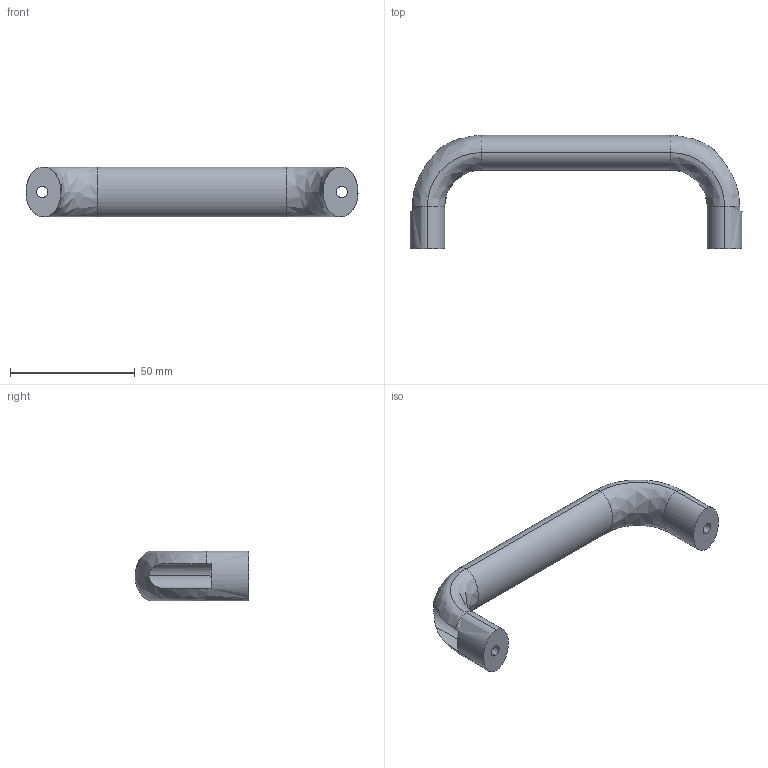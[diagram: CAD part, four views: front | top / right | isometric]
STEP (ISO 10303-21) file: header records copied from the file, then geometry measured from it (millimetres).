
FILE_DESCRIPTION (( 'STEP AP214' ), '1' );
FILE_NAME ('HDL2-04.STEP', '2014-10-15T05:09:55', ( '' ), ( '' ), 'SwSTEP 2.0', 'SolidWorks 2014', '' );
FILE_SCHEMA (( 'AUTOMOTIVE_DESIGN' ));
Length unit declared in the file: millimetre
Products named in the file (1): HDL2-04
Bounding box: 132.97 x 45.48 x 20 mm (x, y, z)
Volume: 34807.3 mm3; surface area: 11106.7 mm2
Topology: 1 solids, 1 shells, 31 faces, 73 edges, 46 vertices
Faces by surface type: bspline 10, plane 10, cylinder 7, cone 4
Entity records: 1063 total; most frequent: CARTESIAN_POINT 376, ORIENTED_EDGE 146, DIRECTION 125, EDGE_CURVE 73, AXIS2_PLACEMENT_3D 49, VERTEX_POINT 46, EDGE_LOOP 37, FACE_OUTER_BOUND 31
